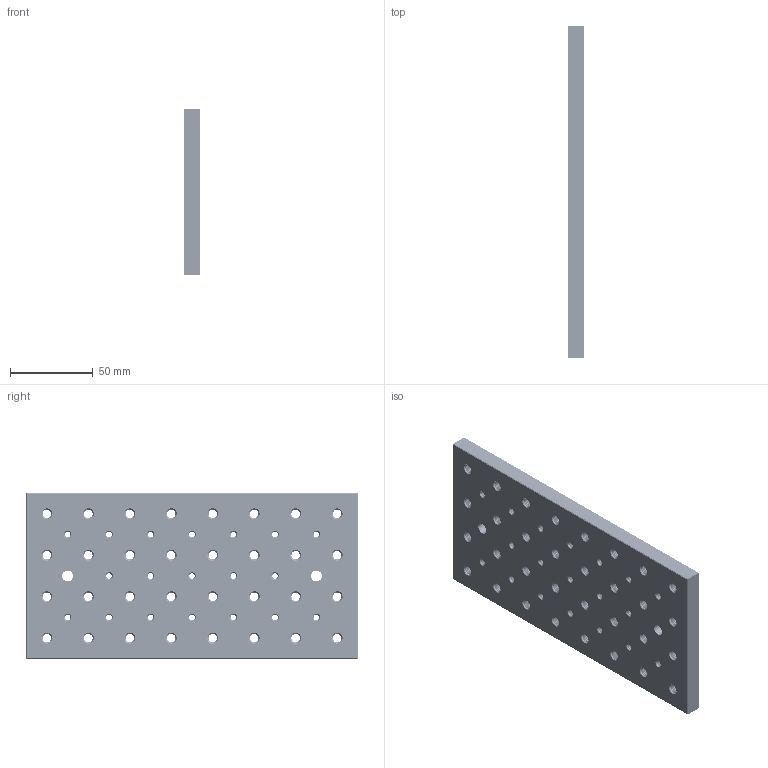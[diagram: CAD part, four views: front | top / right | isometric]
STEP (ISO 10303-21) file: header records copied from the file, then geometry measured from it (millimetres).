
FILE_DESCRIPTION((''),'2;1');
FILE_NAME('OHD2010-M','2020-10-27T',('Administrator'),(''),'CREO PARAMETRIC BY PTC INC, 2015290','CREO PARAMETRIC BY PTC INC, 2015290','');
FILE_SCHEMA(('CONFIG_CONTROL_DESIGN'));
Products named in the file (1): OHD2010-M
Bounding box: 10 x 200 x 100 mm (x, y, z)
Volume: 188167.6 mm3; surface area: 54130.6 mm2
Topology: 1 solids, 1 shells, 1793 faces, 4947 edges, 3158 vertices
Faces by surface type: cylinder 1059, bspline 510, cone 208, plane 16
Entity records: 130146 total; most frequent: CARTESIAN_POINT 91125, ORIENTED_EDGE 9894, DIRECTION 5176, EDGE_CURVE 4947, VERTEX_POINT 3158, B_SPLINE_CURVE_WITH_KNOTS 2765, EDGE_LOOP 1901, FACE_OUTER_BOUND 1793
